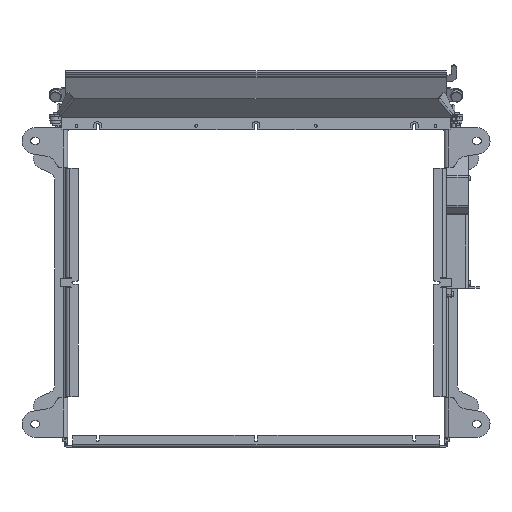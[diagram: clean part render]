
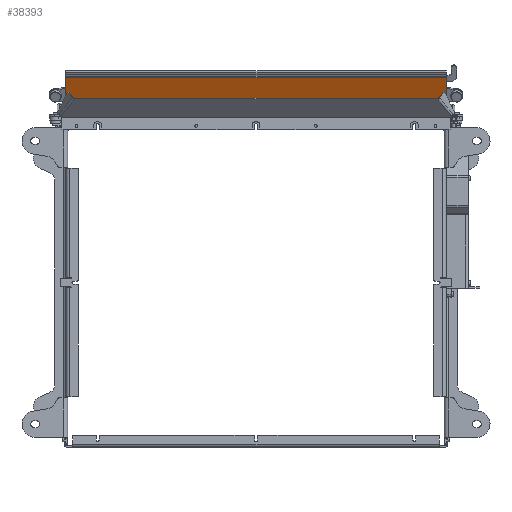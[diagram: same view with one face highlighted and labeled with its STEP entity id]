
A CAD part, front view. The second image highlights one B-rep face of the part: STEP entity #38393.
In plain terms, the highlighted planar face has unit normal (0, -0.882, -0.471).
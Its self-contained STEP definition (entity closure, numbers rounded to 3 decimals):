
#1178 = VECTOR ( 'NONE', #13981, 1000. ) ;
#3146 = EDGE_CURVE ( 'NONE', #3839, #41017, #31093, .T. ) ;
#3399 = LINE ( 'NONE', #12622, #4117 ) ;
#3839 = VERTEX_POINT ( 'NONE', #45043 ) ;
#4117 = VECTOR ( 'NONE', #50246, 1000. ) ;
#4418 = EDGE_CURVE ( 'NONE', #45546, #34557, #37635, .T. ) ;
#8765 = CARTESIAN_POINT ( 'NONE',  ( 216.5, 57.824, 58.306 ) ) ;
#9219 = PLANE ( 'NONE',  #28418 ) ;
#9657 = FACE_OUTER_BOUND ( 'NONE', #40331, .T. ) ;
#10400 = ORIENTED_EDGE ( 'NONE', *, *, #3146, .T. ) ;
#12622 = CARTESIAN_POINT ( 'NONE',  ( -216.5, 55., 63.6 ) ) ;
#13981 = DIRECTION ( 'NONE',  ( 0., -0.471, 0.882 ) ) ;
#26295 = CARTESIAN_POINT ( 'NONE',  ( -216.5, 57.824, 58.306 ) ) ;
#28086 = DIRECTION ( 'NONE',  ( -1., 0., 0. ) ) ;
#28298 = EDGE_CURVE ( 'NONE', #41017, #45546, #34525, .T. ) ;
#28418 = AXIS2_PLACEMENT_3D ( 'NONE', #32457, #42021, #28086 ) ;
#29804 = CARTESIAN_POINT ( 'NONE',  ( 216.5, 57.824, 58.306 ) ) ;
#31093 = LINE ( 'NONE', #40738, #52676 ) ;
#32457 = CARTESIAN_POINT ( 'NONE',  ( 0., 68.294, 38.674 ) ) ;
#34525 = LINE ( 'NONE', #42426, #1178 ) ;
#34557 = VERTEX_POINT ( 'NONE', #26295 ) ;
#34588 = EDGE_CURVE ( 'NONE', #34557, #3839, #3399, .T. ) ;
#37635 = LINE ( 'NONE', #8765, #59876 ) ;
#38393 = ADVANCED_FACE ( 'NONE', ( #9657 ), #9219, .T. ) ;
#40140 = DIRECTION ( 'NONE',  ( 1., 0., 0. ) ) ;
#40331 = EDGE_LOOP ( 'NONE', ( #53453, #52136, #10400, #52466 ) ) ;
#40738 = CARTESIAN_POINT ( 'NONE',  ( -216.5, 81.588, 13.747 ) ) ;
#41017 = VERTEX_POINT ( 'NONE', #44530 ) ;
#41998 = DIRECTION ( 'NONE',  ( -1., 0., 0. ) ) ;
#42021 = DIRECTION ( 'NONE',  ( 0., -0.882, -0.471 ) ) ;
#42426 = CARTESIAN_POINT ( 'NONE',  ( 216.5, 55., 63.6 ) ) ;
#44530 = CARTESIAN_POINT ( 'NONE',  ( 216.5, 81.588, 13.747 ) ) ;
#45043 = CARTESIAN_POINT ( 'NONE',  ( -216.5, 81.588, 13.747 ) ) ;
#45546 = VERTEX_POINT ( 'NONE', #29804 ) ;
#50246 = DIRECTION ( 'NONE',  ( 0., 0.471, -0.882 ) ) ;
#52136 = ORIENTED_EDGE ( 'NONE', *, *, #34588, .T. ) ;
#52466 = ORIENTED_EDGE ( 'NONE', *, *, #28298, .T. ) ;
#52676 = VECTOR ( 'NONE', #40140, 1000. ) ;
#53453 = ORIENTED_EDGE ( 'NONE', *, *, #4418, .T. ) ;
#59876 = VECTOR ( 'NONE', #41998, 1000. ) ;
